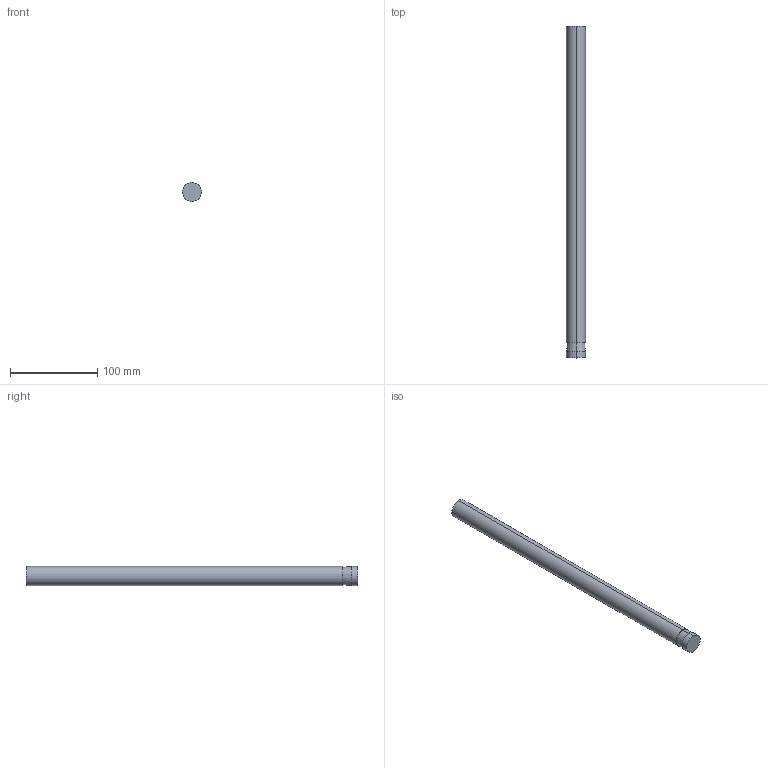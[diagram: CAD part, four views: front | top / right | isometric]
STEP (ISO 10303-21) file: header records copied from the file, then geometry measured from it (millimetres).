
FILE_DESCRIPTION (( 'STEP AP214' ), '1' );
FILE_NAME ('96.STEP', '2024-09-18T09:07:20', ( '' ), ( '' ), 'SwSTEP 2.0', 'SolidWorks 2021', '' );
FILE_SCHEMA (( 'AUTOMOTIVE_DESIGN' ));
Length unit declared in the file: millimetre
Products named in the file (1): 96
Bounding box: 22 x 381.5 x 22 mm (x, y, z)
Volume: 142503.2 mm3; surface area: 28143.2 mm2
Topology: 1 solids, 1 shells, 13 faces, 26 edges, 15 vertices
Faces by surface type: cylinder 6, cone 4, plane 3
Entity records: 384 total; most frequent: DIRECTION 66, CARTESIAN_POINT 53, ORIENTED_EDGE 48, AXIS2_PLACEMENT_3D 28, EDGE_CURVE 24, EDGE_LOOP 15, VERTEX_POINT 15, CIRCLE 14
